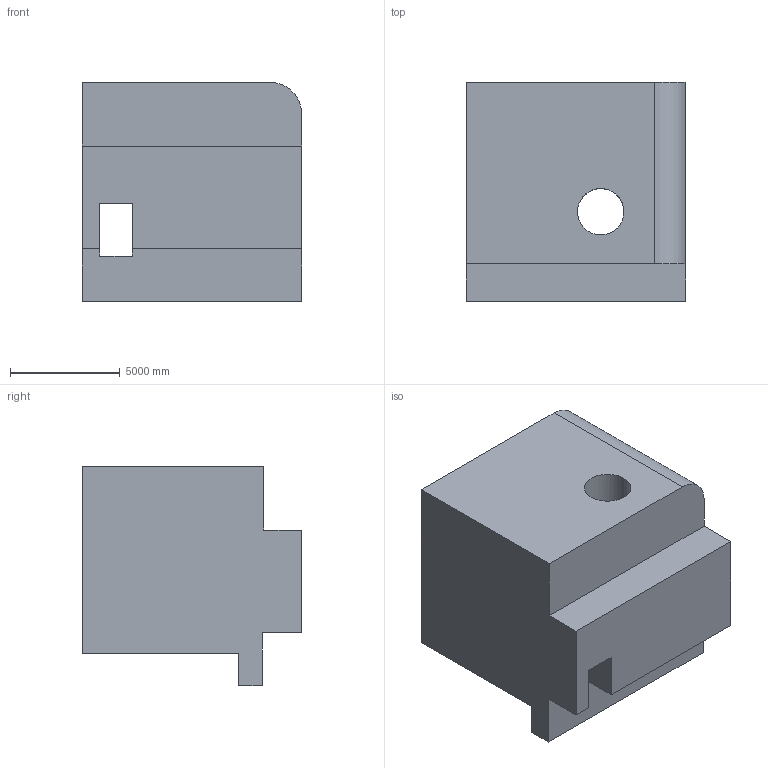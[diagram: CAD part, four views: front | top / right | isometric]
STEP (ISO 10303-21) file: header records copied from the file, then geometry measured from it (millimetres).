
FILE_DESCRIPTION (( 'STEP AP203' ), '1' );
FILE_NAME ('646.STEP', '2022-07-29T12:17:04', ( 'user' ), ( '' ), 'SwSTEP 2.0', 'SolidWorks 2021', '' );
FILE_SCHEMA (( 'CONFIG_CONTROL_DESIGN' ));
Length unit declared in the file: centimetre
Products named in the file (1): 646
Bounding box: 10000 x 10000 x 10000 mm (x, y, z)
Volume: 646210193321.8 mm3; surface area: 667628842.8 mm2
Topology: 1 solids, 1 shells, 24 faces, 69 edges, 46 vertices
Faces by surface type: plane 18, cylinder 6
Entity records: 868 total; most frequent: CARTESIAN_POINT 146, ORIENTED_EDGE 138, DIRECTION 127, EDGE_CURVE 69, LINE 57, VECTOR 57, VERTEX_POINT 46, AXIS2_PLACEMENT_3D 35
